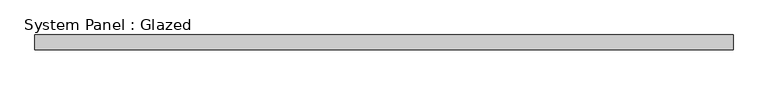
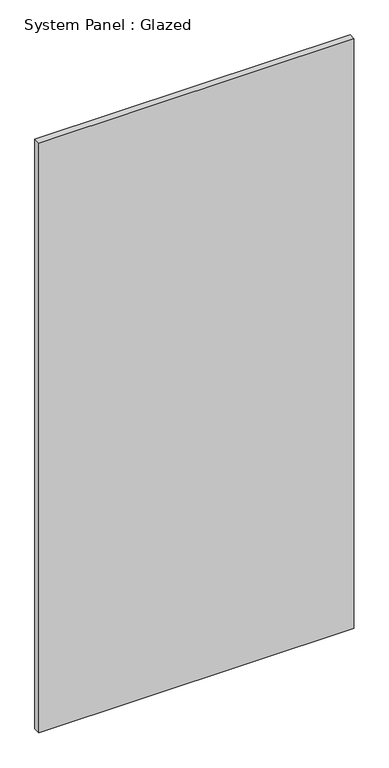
"""IFC4 building model written with IfcOpenShell, lengths in millimetres: plate geometry, System Panel : Glazed."""

import ifcopenshell
import ifcopenshell.guid

model = None  # the IFC model being written
_history = None  # IfcOwnerHistory: only IFC2X3 demands one
_inside = {}  # id of a spatial element -> (the spatial element, [elements in it])
_under = {}  # id of a project, library or spatial element -> (it, [spatial elements below it])
_declared = {}  # id of a project -> (the project, [libraries it declares])
_typed = {}  # id of a type object -> (the type object, [elements of that type])
_made_of = {}  # id of a material, layer set ... -> (it, [elements and type objects made of it])


def new_model(schema):
    """Start an empty IFC model of exactly this schema.

    Asked for "IFC4X3", IfcOpenShell would pick the latest addendum, in which some entities
    have other attributes; the version numbers below select the first issue.
    IFC2X3 requires an IfcOwnerHistory on every rooted entity: one is made here for all.
    """
    global model, _history
    if schema == "IFC4X3":
        model = ifcopenshell.file(schema_version=(4, 3, 0, 0))
    else:
        model = ifcopenshell.file(schema=schema)
    _inside.clear()
    _under.clear()
    _declared.clear()
    _typed.clear()
    _made_of.clear()
    _history = None
    if model.schema == "IFC2X3":
        org = make("IfcOrganization", Name="unknown")
        user = make(
            "IfcPersonAndOrganization",
            ThePerson=make("IfcPerson", FamilyName="unknown"),
            TheOrganization=org,
        )
        app = make(
            "IfcApplication",
            ApplicationDeveloper=org,
            Version="unknown",
            ApplicationFullName="unknown",
            ApplicationIdentifier="unknown",
        )
        _history = make(
            "IfcOwnerHistory",
            OwningUser=user,
            OwningApplication=app,
            ChangeAction="ADDED",
            CreationDate=0,
        )
    return model


def make(cls, **values):
    """One entity of the class cls with the attributes given. An attribute that is None is left unset."""
    return model.create_entity(
        cls, **{name: value for name, value in values.items() if value is not None}
    )


def rooted(cls, **values):
    """An entity with a GlobalId (a new one), such as an element, a storey or a relation."""
    return make(cls, GlobalId=ifcopenshell.guid.new(), OwnerHistory=_history, **values)


def si_unit(unit_type, name, prefix=None):
    """IfcSIUnit, for example si_unit("LENGTHUNIT", "METRE", prefix="MILLI")."""
    return make("IfcSIUnit", UnitType=unit_type, Prefix=prefix, Name=name)


def assignment(units):
    """IfcUnitAssignment: the units of a project."""
    return None if units is None else make("IfcUnitAssignment", Units=units)


def point(xyz):
    """IfcCartesianPoint."""
    return None if xyz is None else make("IfcCartesianPoint", Coordinates=xyz)


def direction(xyz):
    """IfcDirection."""
    return None if xyz is None else make("IfcDirection", DirectionRatios=xyz)


def frame(location, z_axis=None, x_axis=None):
    """IfcAxis2Placement3D, a coordinate frame: its origin and axes. An axis left out is left unset."""
    return make(
        "IfcAxis2Placement3D",
        Location=point(location),
        Axis=direction(z_axis),
        RefDirection=direction(x_axis),
    )


def origin():
    """The frame at (0, 0, 0) with its axes left unset."""
    return frame((0.0, 0.0, 0.0))


def origin_with_axes():
    """The frame at (0, 0, 0) with the z axis (0, 0, 1) and the x axis (1, 0, 0) written out."""
    return frame((0.0, 0.0, 0.0), z_axis=(0.0, 0.0, 1.0), x_axis=(1.0, 0.0, 0.0))


def place(relative_to, where):
    """IfcLocalPlacement: puts the frame where relative to a parent placement (None: the world)."""
    return make(
        "IfcLocalPlacement", PlacementRelTo=relative_to, RelativePlacement=where
    )


def context(
    kind, dimensions, precision=None, world=None, true_north=None, identifier=None
):
    """IfcGeometricRepresentationContext, for example the 3D "Model" context."""
    return make(
        "IfcGeometricRepresentationContext",
        ContextIdentifier=identifier,
        ContextType=kind,
        CoordinateSpaceDimension=dimensions,
        Precision=precision,
        WorldCoordinateSystem=world,
        TrueNorth=true_north,
    )


def project(units=None, contexts=None):
    """IfcProject with its units and contexts."""
    return rooted(
        "IfcProject",
        Name="project",
        RepresentationContexts=contexts,
        UnitsInContext=assignment(units),
    )


def spatial(cls, under=None, at=None, **own):
    """A site, building, storey or space (cls), placed at a placement, below another one or the project."""
    s = rooted(cls, ObjectPlacement=at, **own)
    if under is not None:
        _under.setdefault(under.id(), (under, []))[1].append(s)
    return s


def polyline(points):
    """IfcPolyline through the points."""
    return make("IfcPolyline", Points=[point(p) for p in points])


def outline(outer, holes=None, kind="AREA"):
    """IfcArbitraryClosedProfileDef: a profile drawn as a closed curve; with holes, ...WithVoids."""
    if holes is None:
        return make("IfcArbitraryClosedProfileDef", ProfileType=kind, OuterCurve=outer)
    return make(
        "IfcArbitraryProfileDefWithVoids",
        ProfileType=kind,
        OuterCurve=outer,
        InnerCurves=holes,
    )


def extrude(swept, where, along, depth):
    """IfcExtrudedAreaSolid: the profile swept, set in the frame where, extruded along a direction by depth."""
    return make(
        "IfcExtrudedAreaSolid",
        SweptArea=swept,
        Position=where,
        ExtrudedDirection=direction(along),
        Depth=depth,
    )


def shape(context_of_items, identifier, shape_type, items):
    """IfcShapeRepresentation: the items that make up one representation, for example the "Body"."""
    return make(
        "IfcShapeRepresentation",
        ContextOfItems=context_of_items,
        RepresentationIdentifier=identifier,
        RepresentationType=shape_type,
        Items=items,
    )


def source(mapping_origin, context_of_items, identifier, shape_type, items):
    """IfcRepresentationMap: a shape defined once, which mapped items show again and again."""
    return make(
        "IfcRepresentationMap",
        MappingOrigin=mapping_origin,
        MappedRepresentation=shape(context_of_items, identifier, shape_type, items),
    )


def transform(
    local_origin,
    x_axis=None,
    y_axis=None,
    z_axis=None,
    scale=None,
    scale2=None,
    scale3=None,
    uniform=True,
):
    """IfcCartesianTransformationOperator3D, or its non-uniform kind. x_axis, y_axis, z_axis: its Axis1, 2, 3."""
    if uniform:
        return make(
            "IfcCartesianTransformationOperator3D",
            Axis1=direction(x_axis),
            Axis2=direction(y_axis),
            LocalOrigin=point(local_origin),
            Scale=scale,
            Axis3=direction(z_axis),
        )
    return make(
        "IfcCartesianTransformationOperator3DnonUniform",
        Axis1=direction(x_axis),
        Axis2=direction(y_axis),
        LocalOrigin=point(local_origin),
        Scale=scale,
        Axis3=direction(z_axis),
        Scale2=scale2,
        Scale3=scale3,
    )


def mapped(mapping_source, mapping_target):
    """IfcMappedItem: shows the shape of a source again, moved by a transform."""
    return make(
        "IfcMappedItem", MappingSource=mapping_source, MappingTarget=mapping_target
    )


def made_of(thing, what):
    """Note that an element or type object is made of a material, layer set ...; save() writes the relation."""
    if what is not None:
        _made_of.setdefault(what.id(), (what, []))[1].append(thing)
    return thing


def element(
    cls,
    number,
    at=None,
    inside=None,
    cuts=None,
    type_object=None,
    material=None,
    context=None,
    identifier="Body",
    shape_type=None,
    held_by="IfcProductDefinitionShape",
    body=None,
    shapes=None,
    **own,
):
    """One element of the class cls, such as IfcWall. Its Tag is "e" and its number.

    at: its placement. inside: the storey or other place that contains it. cuts: it is an
    opening in that element (IfcRelVoidsElement). A single representation is given by context,
    identifier, shape_type and body (its items); several are given by shapes. held_by: the class
    of the entity that holds the representations. save() writes the other relations.
    """
    e = rooted(cls, Tag="e%d" % number, ObjectPlacement=at, **own)
    if body is not None:
        shapes = [shape(context, identifier, shape_type, body)]
    if shapes is not None:
        e.Representation = make(held_by, Representations=shapes)
    if inside is not None:
        _inside.setdefault(inside.id(), (inside, []))[1].append(e)
    if cuts is not None:
        rooted(
            "IfcRelVoidsElement", RelatingBuildingElement=cuts, RelatedOpeningElement=e
        )
    if type_object is not None:
        _typed.setdefault(type_object.id(), (type_object, []))[1].append(e)
    return made_of(e, material)


def aggregate(whole, parts):
    """IfcRelAggregates: a whole, such as a stair, and the parts it consists of."""
    return rooted("IfcRelAggregates", RelatingObject=whole, RelatedObjects=parts)


def save(model, path):
    """Write the relations noted so far, then the file.

    IfcRelAggregates (storeys below a building ...), IfcRelContainedInSpatialStructure (elements
    in a storey), IfcRelDefinesByType, IfcRelAssociatesMaterial and IfcRelDeclares: one each for
    every whole, place, type object, material and project.
    """
    for whole, parts in _under.values():
        aggregate(whole, parts)
    for where, things in _inside.values():
        rooted(
            "IfcRelContainedInSpatialStructure",
            RelatedElements=things,
            RelatingStructure=where,
        )
    for kind, things in _typed.values():
        rooted("IfcRelDefinesByType", RelatedObjects=things, RelatingType=kind)
    for what, things in _made_of.values():
        rooted("IfcRelAssociatesMaterial", RelatedObjects=things, RelatingMaterial=what)
    for by, libraries in _declared.values():
        rooted("IfcRelDeclares", RelatingContext=by, RelatedDefinitions=libraries)
    model.write(path)


def system_panel_glazed_c20ad364(model_context):
    return source(origin(), model_context, "Body", "SweptSolid", [
        extrude(outline(polyline([(587.5, 24.5), (-587.5, 24.5), (-587.5, 49.5), (587.5, 49.5), (587.5, 24.5)])), origin_with_axes(), (0.0, 0.0, 1.0), 2325.0),
    ])


if __name__ == "__main__":
    model = new_model("IFC4")
    model_context = context("Model", 3, world=origin())
    ifc_project = project(units=[si_unit("LENGTHUNIT", "METRE", prefix="MILLI")], contexts=[model_context])
    site = spatial("IfcSite", under=ifc_project)
    building = spatial("IfcBuilding", under=site)
    placement = place(None, origin())
    system_panel_glazed_shape = system_panel_glazed_c20ad364(model_context)
    element("IfcPlate", 1, ObjectType="System Panel : Glazed", at=placement, inside=building, context=model_context, shape_type="MappedRepresentation", body=[
        mapped(system_panel_glazed_shape, transform((0.0, 0.0, 0.0), x_axis=(1.0, 0.0, 0.0), y_axis=(0.0, 1.0, 0.0), z_axis=(0.0, 0.0, 1.0))),
    ])
    save(model, "model.ifc")
